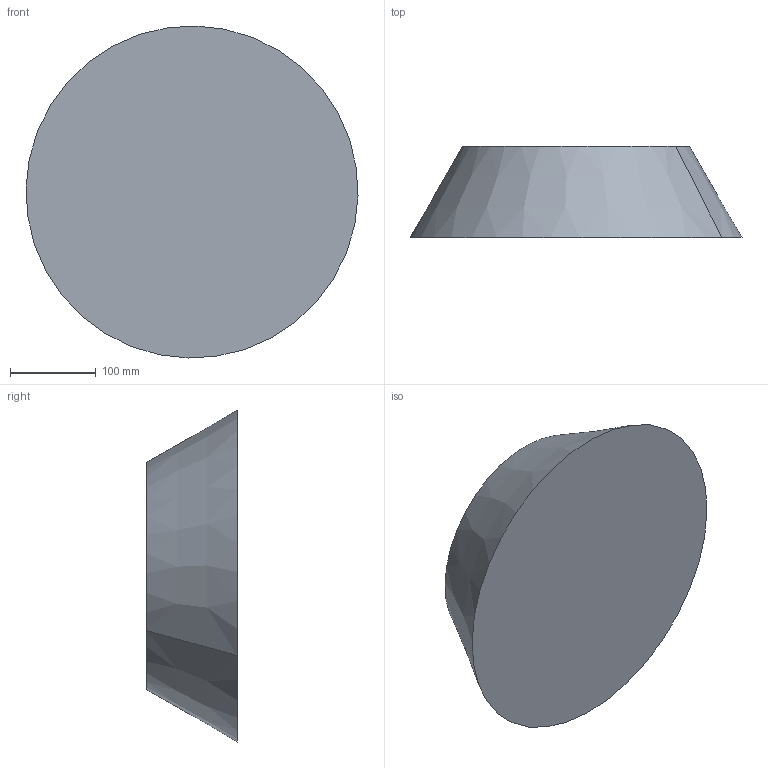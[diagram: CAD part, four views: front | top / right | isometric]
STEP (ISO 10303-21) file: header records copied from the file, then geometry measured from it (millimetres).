
FILE_DESCRIPTION(('CATIA V5 STEP Exchange'),'2;1');
FILE_NAME('C:\_Andres\UNIVERSIDAD\IQS\ASIGNATURAS\DAO\EXF\EXF-16172c\2inicio\Campmany_Monforte_Ej09_v6.stp','2017-03-05T22:13:10+00:00',('none'),('none'),'CATIA Version 5-6 Release 2014 SP1 HF18','CATIA V5 STEP AP203','none');
FILE_SCHEMA(('CONFIG_CONTROL_DESIGN'));
Length unit declared in the file: millimetre
Products named in the file (1): Campmany_Monforte_Ej09_v6
Bounding box: 387.89 x 106 x 387.89 mm (x, y, z)
Volume: 8987318.2 mm3; surface area: 301504.7 mm2
Topology: 1 solids, 2 shells, 8 faces, 12 edges, 8 vertices
Faces by surface type: plane 4, cone 2, cylinder 2
Entity records: 205 total; most frequent: CARTESIAN_POINT 27, DIRECTION 24, ORIENTED_EDGE 24, AXIS2_PLACEMENT_3D 15, EDGE_CURVE 12, ADVANCED_FACE 8, CIRCLE 8, EDGE_LOOP 8
